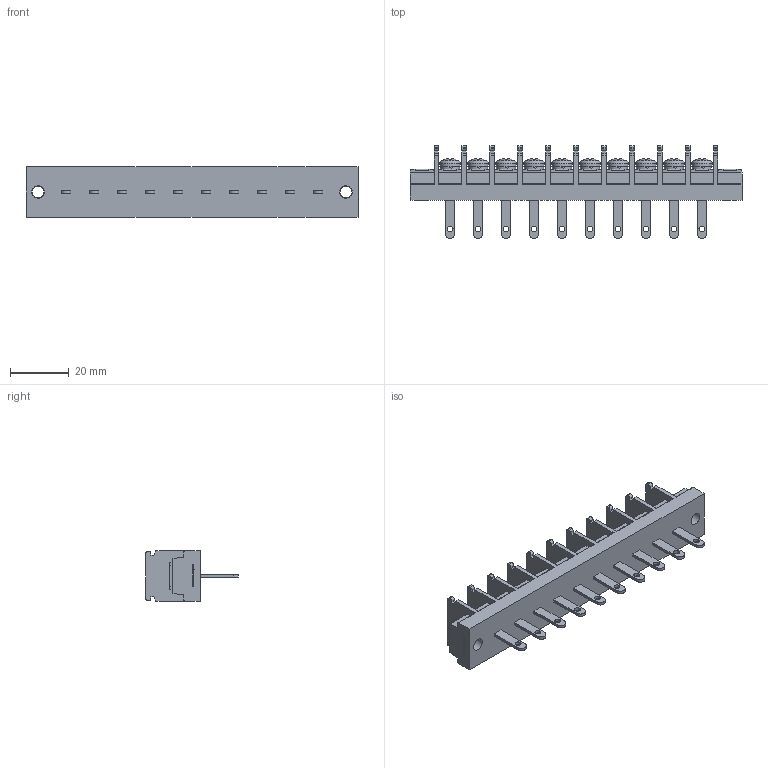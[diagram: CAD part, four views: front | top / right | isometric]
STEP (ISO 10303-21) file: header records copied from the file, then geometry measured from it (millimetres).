
FILE_DESCRIPTION(/* description */ ('Alibre Inc.'),/* implementation_level */ '2;1');
FILE_NAME(/* name */ 'export-B9C66DB3-2916-4E47-8AE7-535B0C0E3686',/* time_stamp */ '2020-11-07T15:42:09+09:00',/* author */ (''),/* organization */ (''),/* preprocessor_version */ 'ST-DEVELOPER v17',/* originating_system */ 'Alibre',/* authorisation */ '');
FILE_SCHEMA (('CONFIG_CONTROL_DESIGN'));
Length unit declared in the file: millimetre
Bounding box: 112.7 x 31.5 x 17 mm (x, y, z)
Volume: 20302.2 mm3; surface area: 13752.5 mm2
Topology: 1 solids, 11 shells, 1300 faces, 3574 edges, 2370 vertices
Faces by surface type: plane 936, cylinder 180, bspline 104, cone 50, torus 20, sphere 10
Full cylindrical faces by diameter (mm): 2 x10, 4 x22, 4.2 x2, 6.5 x10, 7 x10
Entity records: 39319 total; most frequent: CARTESIAN_POINT 8204, ORIENTED_EDGE 6896, DIRECTION 5188, EDGE_CURVE 3448, VECTOR 2390, LINE 2390, VERTEX_POINT 2318, AXIS2_PLACEMENT_3D 1848
